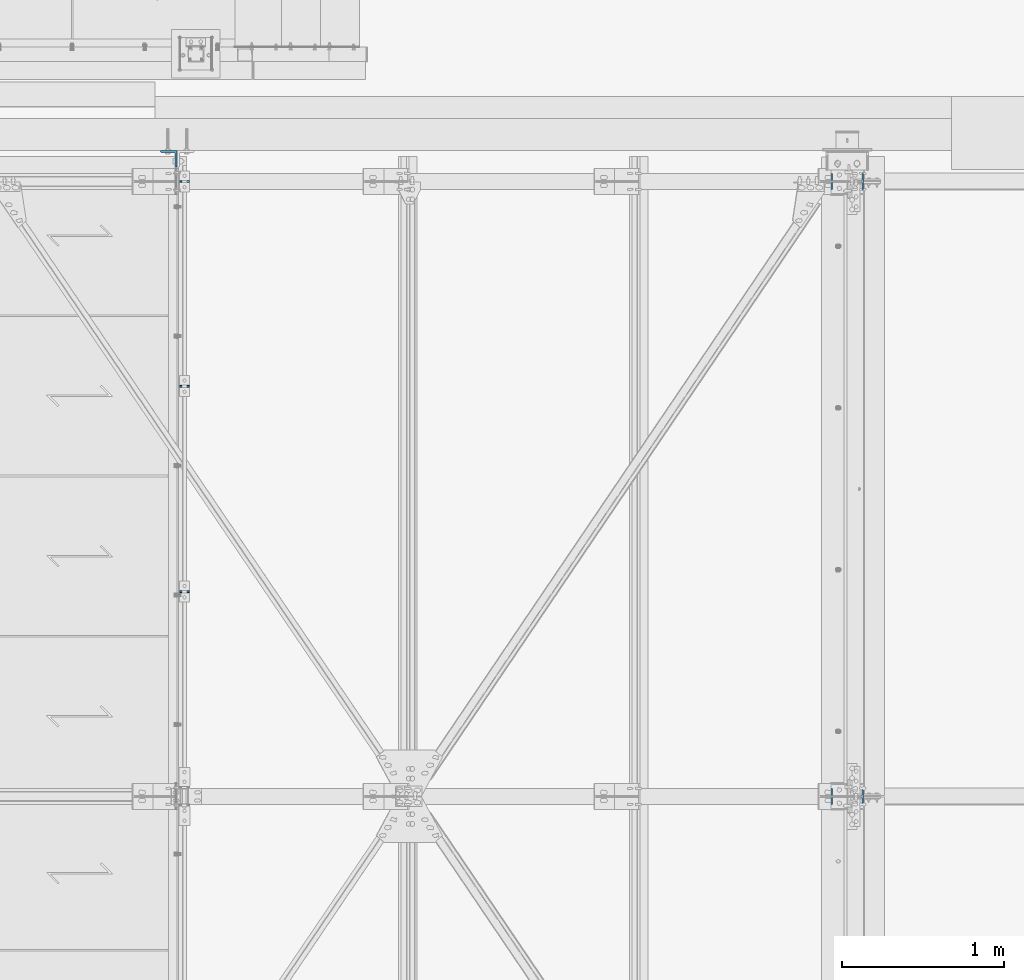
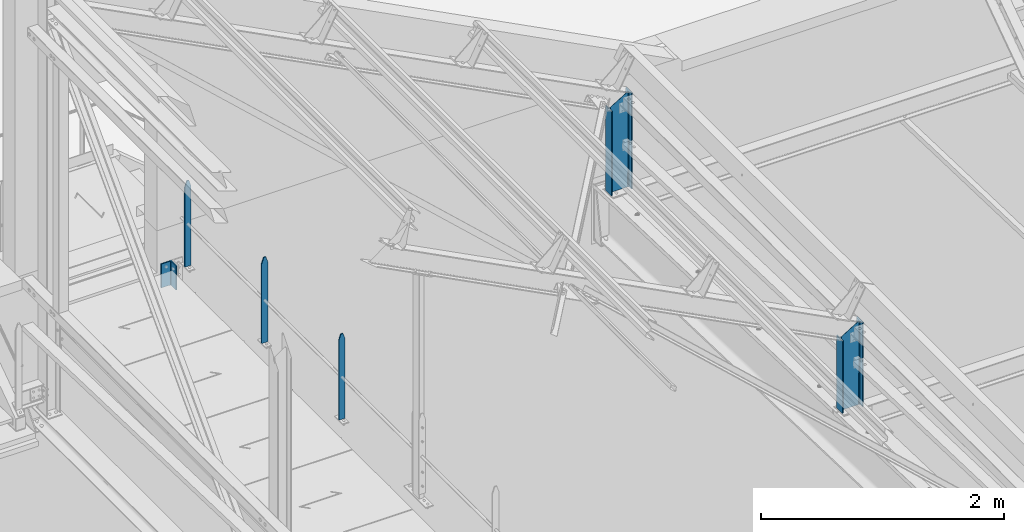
# One storey, part 33 of 362: 6 columns, 4 elements without a shape of their own.
"""IFC2X3 building model written with IfcOpenShell, lengths in millimetres."""

from ifc_helpers import new_model, si_unit, frame, origin_with_axes, origin_2d_with_axis, place, context, subcontext, project, spatial, rectangle, i_section, l_section, extrude, clip, halfspace, material, type_object, element, aggregate, save


model = new_model("IFC2X3")

# Units and contexts
model_context = context("Model", 3, precision=1e-05, world=origin_with_axes())
body_context = subcontext(model_context, "Body", "Model", "MODEL_VIEW")
ifc_project = project(units=[si_unit("LENGTHUNIT", "METRE", prefix="MILLI"), si_unit("AREAUNIT", "SQUARE_METRE"), si_unit("VOLUMEUNIT", "CUBIC_METRE"), si_unit("MASSUNIT", "GRAM", prefix="KILO"), si_unit("TIMEUNIT", "SECOND"), si_unit("PLANEANGLEUNIT", "RADIAN"), si_unit("SOLIDANGLEUNIT", "STERADIAN"), si_unit("THERMODYNAMICTEMPERATUREUNIT", "DEGREE_CELSIUS"), si_unit("LUMINOUSINTENSITYUNIT", "LUMEN")], contexts=[model_context])

# Site, building, storey
site_placement = place(None, origin_with_axes())
site = spatial("IfcSite", under=ifc_project, at=site_placement, Name="Undefined", CompositionType="ELEMENT")
building_placement = place(site_placement, origin_with_axes())
building = spatial("IfcBuilding", under=site, at=building_placement, Name="Undefined", CompositionType="ELEMENT")
storey_placement = place(building_placement, origin_with_axes())
storey = spatial("IfcBuildingStorey", under=building, at=storey_placement, Name="Undefined", CompositionType="ELEMENT", Elevation=0.0)

# Assembly, columns
assembly_1_placement = place(storey_placement, origin_with_axes())
assembly_1 = element("IfcElementAssembly", 1, at=assembly_1_placement, inside=storey, Name="MAIN COURANTE", AssemblyPlace="NOTDEFINED", PredefinedType="NOTDEFINED")
ifc_material_1 = material(Name="Undefined/S235-E24")
column_type_1 = type_object("IfcColumnType", Name="PL10*60", PredefinedType="NOTDEFINED")
column_1_placement = place(assembly_1_placement, frame((24783.9916087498, 15200.0000000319, 8249.99999828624), z_axis=(0.0, 0.0, 1.0), x_axis=(1.0, 0.0, 0.0)))
column_1 = element("IfcColumn", 2, at=column_1_placement, type_object=column_type_1, material=ifc_material_1, Name="MONTANT", ObjectType="PL10*60", context=body_context, shape_type="Clipping", body=[
    clip(clip(extrude(rectangle(XDim=10.0, YDim=60.0, at=origin_2d_with_axis()), frame((0.0, 0.0, 857.599997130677), z_axis=(0.0, 0.0, -1.0), x_axis=(0.0, 1.0, 0.0)), (0.0, 0.0, 1.0), 857.6), halfspace(frame((30.0000001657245, -5.000000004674, 797.599997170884), z_axis=(0.948683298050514, 0.0, 0.316227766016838), x_axis=(-0.316227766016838, 0.0, 0.948683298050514)), False)), halfspace(frame((-29.9999998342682, 4.99999999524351, 797.599997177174), z_axis=(-0.948683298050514, 0.0, 0.316227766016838), x_axis=(0.316227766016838, 0.0, 0.948683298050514)), False)),
])
column_2_placement = place(assembly_1_placement, frame((24783.9916067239, 12665.0034395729, 8250.00000011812), z_axis=(0.0, 0.0, 1.0), x_axis=(1.0, 0.0, 0.0)))
column_2 = element("IfcColumn", 3, at=column_2_placement, type_object=column_type_1, material=ifc_material_1, Name="MONTANT", ObjectType="PL10*60", context=body_context, shape_type="Clipping", body=[
    clip(clip(extrude(rectangle(XDim=10.0, YDim=60.0, at=origin_2d_with_axis()), frame((0.0, 0.0, 857.599997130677), z_axis=(0.0, 0.0, -1.0), x_axis=(0.0, 1.0, 0.0)), (0.0, 0.0, 1.0), 857.6), halfspace(frame((30.0000001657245, -5.000000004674, 797.599997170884), z_axis=(0.948683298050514, 0.0, 0.316227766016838), x_axis=(-0.316227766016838, 0.0, 0.948683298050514)), False)), halfspace(frame((-29.9999998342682, 4.99999999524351, 797.599997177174), z_axis=(-0.948683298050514, 0.0, 0.316227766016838), x_axis=(0.316227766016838, 0.0, 0.948683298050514)), False)),
])
column_3_placement = place(assembly_1_placement, frame((24783.9916077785, 13935.0034395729, 8249.99999924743), z_axis=(0.0, 0.0, 1.0), x_axis=(1.0, 0.0, 0.0)))
column_3 = element("IfcColumn", 4, at=column_3_placement, type_object=column_type_1, material=ifc_material_1, Name="MONTANT", ObjectType="PL10*60", context=body_context, shape_type="Clipping", body=[
    clip(clip(extrude(rectangle(XDim=10.0, YDim=60.0, at=origin_2d_with_axis()), frame((0.0, 0.0, 857.599997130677), z_axis=(0.0, 0.0, -1.0), x_axis=(0.0, 1.0, 0.0)), (0.0, 0.0, 1.0), 857.6), halfspace(frame((30.0000001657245, -5.000000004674, 797.599997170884), z_axis=(0.948683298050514, 0.0, 0.316227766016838), x_axis=(-0.316227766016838, 0.0, 0.948683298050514)), False)), halfspace(frame((-29.9999998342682, 4.99999999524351, 797.599997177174), z_axis=(-0.948683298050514, 0.0, 0.316227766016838), x_axis=(0.316227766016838, 0.0, 0.948683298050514)), False)),
])
aggregate(assembly_1, [column_1, column_2, column_3])

# Assembly, column
assembly_2_placement = place(storey_placement, origin_with_axes())
assembly_2 = element("IfcElementAssembly", 5, at=assembly_2_placement, inside=storey, AssemblyPlace="NOTDEFINED", PredefinedType="NOTDEFINED")
column_type_2 = type_object("IfcColumnType", Name="L100*10", PredefinedType="NOTDEFINED")
column_4_placement = place(assembly_2_placement, frame((24686.491600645, 15339.9999999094, 7970.00437164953), z_axis=(0.0, 0.0, 1.0), x_axis=(-1.0, 0.0, 0.0)))
column_4 = element("IfcColumn", 6, at=column_4_placement, type_object=column_type_2, material=ifc_material_1, Name="ATTACHE", ObjectType="L100*10", context=body_context, shape_type="SweptSolid", body=[
    extrude(l_section(Depth=100.0, Width=100.0, Thickness=10.0, FilletRadius=12.0, EdgeRadius=6.0, at=origin_2d_with_axis()), frame((0.0, 0.0, 239.999999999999), z_axis=(0.0, 0.0, -1.0), x_axis=(0.0, 1.0, 0.0)), (0.0, 0.0, 1.0), 240.0),
])
aggregate(assembly_2, [column_4])

assembly_3_placement = place(storey_placement, origin_with_axes())
assembly_3 = element("IfcElementAssembly", 7, at=assembly_3_placement, inside=storey, Name="TRAVERSE SHED", AssemblyPlace="NOTDEFINED", PredefinedType="NOTDEFINED")
ifc_material_2 = material(Name="Undefined/S275-E28")
column_type_3 = type_object("IfcColumnType", Name="IPE200", PredefinedType="NOTDEFINED")
column_5_placement = place(assembly_3_placement, frame((28880.0, 15200.0, 7572.32075715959), z_axis=(0.0, 0.0, 1.0), x_axis=(-1.0, 0.0, 0.0)))
column_5 = element("IfcColumn", 8, at=column_5_placement, type_object=column_type_3, material=ifc_material_2, Name="TRAVERSE SHED", ObjectType="IPE200", context=body_context, shape_type="Clipping", body=[
    clip(clip(extrude(i_section(OverallWidth=100.0, OverallDepth=200.0, WebThickness=5.599999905, FlangeThickness=8.5, FilletRadius=12.0, at=origin_2d_with_axis()), frame((0.0, 0.0, 979.874368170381), z_axis=(0.0, 0.0, -1.0), x_axis=(0.0, 1.0, 0.0)), (0.0, 0.0, 1.0), 1032.87), halfspace(frame((-100.000000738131, 11400.0, 977.679244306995), z_axis=(0.519570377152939, 0.0, 0.854427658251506), x_axis=(0.0, 1.0, 0.0)), False)), halfspace(frame((0.0, -61.6670185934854, 8.06698960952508), z_axis=(0.0, 0.031410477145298, -0.999506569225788), x_axis=(1.0, 0.0, 0.0)), False)),
])
aggregate(assembly_3, [column_5])

assembly_4_placement = place(storey_placement, origin_with_axes())
assembly_4 = element("IfcElementAssembly", 9, at=assembly_4_placement, inside=storey, Name="TRAVERSE SHED", AssemblyPlace="NOTDEFINED", PredefinedType="NOTDEFINED")
column_6_placement = place(assembly_4_placement, frame((28880.0, 11400.0, 7691.74056786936), z_axis=(0.0, 0.0, 1.0), x_axis=(-1.0, 0.0, 0.0)))
column_6 = element("IfcColumn", 10, at=column_6_placement, type_object=column_type_3, material=ifc_material_2, Name="TRAVERSE SHED", ObjectType="IPE200", context=body_context, shape_type="Clipping", body=[
    clip(clip(extrude(i_section(OverallWidth=100.0, OverallDepth=200.0, WebThickness=5.599999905, FlangeThickness=8.5, FilletRadius=12.0, at=origin_2d_with_axis()), frame((0.0, 0.0, 860.454557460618), z_axis=(0.0, 0.0, -1.0), x_axis=(0.0, 1.0, 0.0)), (0.0, 0.0, 1.0), 913.45), halfspace(frame((-100.000000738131, 7600.0, 858.259433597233), z_axis=(0.519570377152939, 0.0, 0.854427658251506), x_axis=(0.0, 1.0, 0.0)), False)), halfspace(frame((0.0, -22.8324402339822, 9.28788433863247), z_axis=(0.0, 0.031410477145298, -0.999506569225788), x_axis=(1.0, 0.0, 0.0)), False)),
])
aggregate(assembly_4, [column_6])

save(model, "model.ifc")
